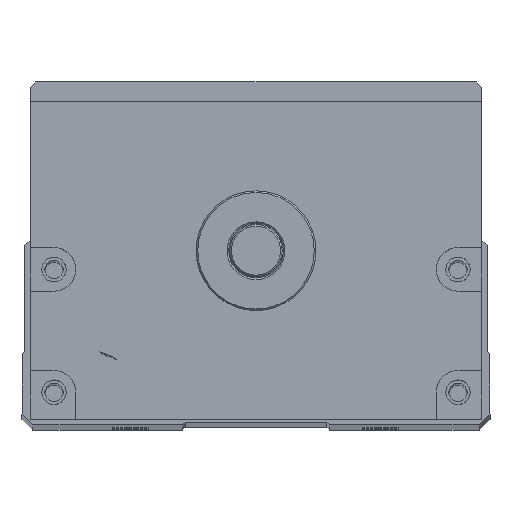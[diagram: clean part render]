
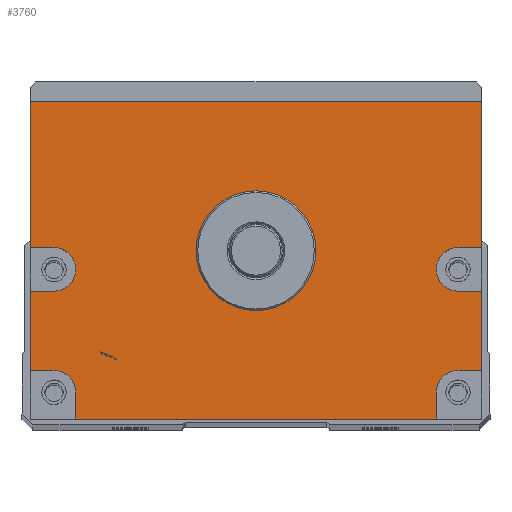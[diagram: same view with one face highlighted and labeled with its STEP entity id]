
A CAD part, top view. The second image highlights one B-rep face of the part: STEP entity #3760.
In plain terms, the highlighted planar face has unit normal (0, 0, 1).
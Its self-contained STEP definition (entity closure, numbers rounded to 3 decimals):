
#3167=FACE_BOUND('',#5207,.T.);
#3168=FACE_BOUND('',#5208,.T.);
#3760=ADVANCED_FACE('',(#3167,#3168),#4194,.T.);
#4194=PLANE('',#13502);
#5207=EDGE_LOOP('',(#8624,#8625,#8626,#8627,#8628,#8629,#8630,#8631,#8632,
#8633,#8634,#8635,#8636,#8637,#8638,#8639,#8640,#8641));
#5208=EDGE_LOOP('',(#8642));
#5999=LINE('',#19517,#6668);
#6001=LINE('',#19525,#6670);
#6002=LINE('',#19528,#6671);
#6003=LINE('',#19530,#6672);
#6004=LINE('',#19534,#6673);
#6005=LINE('',#19536,#6674);
#6006=LINE('',#19537,#6675);
#6007=LINE('',#19539,#6676);
#6008=LINE('',#19543,#6677);
#6009=LINE('',#19545,#6678);
#6010=LINE('',#19547,#6679);
#6011=LINE('',#19551,#6680);
#6012=LINE('',#19553,#6681);
#6013=LINE('',#19555,#6682);
#6668=VECTOR('',#15549,1.);
#6670=VECTOR('',#15557,1.);
#6671=VECTOR('',#15558,1.);
#6672=VECTOR('',#15559,1.);
#6673=VECTOR('',#15562,1.);
#6674=VECTOR('',#15563,1.);
#6675=VECTOR('',#15564,1.);
#6676=VECTOR('',#15565,1.);
#6677=VECTOR('',#15568,1.);
#6678=VECTOR('',#15569,1.);
#6679=VECTOR('',#15570,1.);
#6680=VECTOR('',#15573,1.);
#6681=VECTOR('',#15574,1.);
#6682=VECTOR('',#15575,1.);
#8624=ORIENTED_EDGE('',*,*,#11556,.F.);
#8625=ORIENTED_EDGE('',*,*,#11557,.T.);
#8626=ORIENTED_EDGE('',*,*,#11558,.F.);
#8627=ORIENTED_EDGE('',*,*,#11559,.F.);
#8628=ORIENTED_EDGE('',*,*,#11560,.F.);
#8629=ORIENTED_EDGE('',*,*,#11561,.T.);
#8630=ORIENTED_EDGE('',*,*,#11552,.T.);
#8631=ORIENTED_EDGE('',*,*,#11562,.T.);
#8632=ORIENTED_EDGE('',*,*,#11563,.F.);
#8633=ORIENTED_EDGE('',*,*,#11564,.F.);
#8634=ORIENTED_EDGE('',*,*,#11565,.F.);
#8635=ORIENTED_EDGE('',*,*,#11566,.T.);
#8636=ORIENTED_EDGE('',*,*,#11567,.F.);
#8637=ORIENTED_EDGE('',*,*,#11568,.F.);
#8638=ORIENTED_EDGE('',*,*,#11569,.F.);
#8639=ORIENTED_EDGE('',*,*,#11570,.T.);
#8640=ORIENTED_EDGE('',*,*,#11571,.F.);
#8641=ORIENTED_EDGE('',*,*,#11572,.F.);
#8642=ORIENTED_EDGE('',*,*,#11538,.T.);
#10290=VERTEX_POINT('',#19488);
#10303=VERTEX_POINT('',#19516);
#10304=VERTEX_POINT('',#19518);
#10307=VERTEX_POINT('',#19526);
#10308=VERTEX_POINT('',#19527);
#10309=VERTEX_POINT('',#19529);
#10310=VERTEX_POINT('',#19531);
#10311=VERTEX_POINT('',#19533);
#10312=VERTEX_POINT('',#19535);
#10313=VERTEX_POINT('',#19538);
#10314=VERTEX_POINT('',#19540);
#10315=VERTEX_POINT('',#19542);
#10316=VERTEX_POINT('',#19544);
#10317=VERTEX_POINT('',#19546);
#10318=VERTEX_POINT('',#19548);
#10319=VERTEX_POINT('',#19550);
#10320=VERTEX_POINT('',#19552);
#10321=VERTEX_POINT('',#19554);
#10322=VERTEX_POINT('',#19556);
#11538=EDGE_CURVE('',#10290,#10290,#12318,.T.);
#11552=EDGE_CURVE('',#10304,#10303,#5999,.T.);
#11556=EDGE_CURVE('',#10307,#10308,#6001,.T.);
#11557=EDGE_CURVE('',#10307,#10309,#6002,.T.);
#11558=EDGE_CURVE('',#10310,#10309,#6003,.T.);
#11559=EDGE_CURVE('',#10311,#10310,#12329,.T.);
#11560=EDGE_CURVE('',#10312,#10311,#6004,.T.);
#11561=EDGE_CURVE('',#10312,#10304,#6005,.T.);
#11562=EDGE_CURVE('',#10303,#10313,#6006,.T.);
#11563=EDGE_CURVE('',#10314,#10313,#6007,.T.);
#11564=EDGE_CURVE('',#10315,#10314,#12330,.T.);
#11565=EDGE_CURVE('',#10316,#10315,#6008,.T.);
#11566=EDGE_CURVE('',#10316,#10317,#6009,.T.);
#11567=EDGE_CURVE('',#10318,#10317,#6010,.T.);
#11568=EDGE_CURVE('',#10319,#10318,#12331,.T.);
#11569=EDGE_CURVE('',#10320,#10319,#6011,.T.);
#11570=EDGE_CURVE('',#10320,#10321,#6012,.T.);
#11571=EDGE_CURVE('',#10322,#10321,#6013,.T.);
#11572=EDGE_CURVE('',#10308,#10322,#12332,.T.);
#12318=CIRCLE('',#13484,11.);
#12329=CIRCLE('',#13498,4.);
#12330=CIRCLE('',#13499,4.);
#12331=CIRCLE('',#13500,4.);
#12332=CIRCLE('',#13501,4.);
#13484=AXIS2_PLACEMENT_3D('',#19487,#15522,#15523);
#13498=AXIS2_PLACEMENT_3D('',#19532,#15560,#15561);
#13499=AXIS2_PLACEMENT_3D('',#19541,#15566,#15567);
#13500=AXIS2_PLACEMENT_3D('',#19549,#15571,#15572);
#13501=AXIS2_PLACEMENT_3D('',#19557,#15576,#15577);
#13502=AXIS2_PLACEMENT_3D('',#19558,#15578,#15579);
#15522=DIRECTION('',(0.,0.,-1.));
#15523=DIRECTION('',(1.,0.,0.));
#15549=DIRECTION('',(-1.,0.,0.));
#15557=DIRECTION('',(-1.,0.,0.));
#15558=DIRECTION('',(0.,1.,0.));
#15559=DIRECTION('',(1.,0.,0.));
#15560=DIRECTION('',(0.,0.,1.));
#15561=DIRECTION('',(1.,0.,0.));
#15562=DIRECTION('',(-1.,0.,0.));
#15563=DIRECTION('',(0.,1.,0.));
#15564=DIRECTION('',(0.,-1.,0.));
#15565=DIRECTION('',(-1.,0.,0.));
#15566=DIRECTION('',(0.,0.,1.));
#15567=DIRECTION('',(1.,0.,0.));
#15568=DIRECTION('',(1.,0.,0.));
#15569=DIRECTION('',(0.,-1.,0.));
#15570=DIRECTION('',(-1.,0.,0.));
#15571=DIRECTION('',(0.,0.,1.));
#15572=DIRECTION('',(1.,0.,0.));
#15573=DIRECTION('',(0.,1.,0.));
#15574=DIRECTION('',(1.,0.,0.));
#15575=DIRECTION('',(0.,-1.,0.));
#15576=DIRECTION('',(0.,0.,1.));
#15577=DIRECTION('',(1.,0.,0.));
#15578=DIRECTION('',(0.,0.,1.));
#15579=DIRECTION('',(1.,0.,0.));
#19487=CARTESIAN_POINT('',(450.,0.,382.5));
#19488=CARTESIAN_POINT('',(461.,0.,382.5));
#19516=CARTESIAN_POINT('',(408.5,27.5,382.5));
#19517=CARTESIAN_POINT('',(491.5,27.5,382.5));
#19518=CARTESIAN_POINT('',(491.5,27.5,382.5));
#19525=CARTESIAN_POINT('',(491.5,-22.,382.5));
#19526=CARTESIAN_POINT('',(491.5,-22.,382.5));
#19527=CARTESIAN_POINT('',(487.115,-22.,382.5));
#19528=CARTESIAN_POINT('',(491.5,-31.,382.5));
#19529=CARTESIAN_POINT('',(491.5,-7.431,382.5));
#19530=CARTESIAN_POINT('',(491.5,-7.431,382.5));
#19531=CARTESIAN_POINT('',(487.115,-7.431,382.5));
#19532=CARTESIAN_POINT('',(487.115,-3.431,382.5));
#19533=CARTESIAN_POINT('',(487.115,0.569,382.5));
#19534=CARTESIAN_POINT('',(491.5,0.569,382.5));
#19535=CARTESIAN_POINT('',(491.5,0.569,382.5));
#19536=CARTESIAN_POINT('',(491.5,-31.,382.5));
#19537=CARTESIAN_POINT('',(408.5,27.5,382.5));
#19538=CARTESIAN_POINT('',(408.5,0.569,382.5));
#19539=CARTESIAN_POINT('',(491.5,0.569,382.5));
#19540=CARTESIAN_POINT('',(412.885,0.569,382.5));
#19541=CARTESIAN_POINT('',(412.885,-3.431,382.5));
#19542=CARTESIAN_POINT('',(412.885,-7.431,382.5));
#19543=CARTESIAN_POINT('',(491.5,-7.431,382.5));
#19544=CARTESIAN_POINT('',(408.5,-7.431,382.5));
#19545=CARTESIAN_POINT('',(408.5,27.5,382.5));
#19546=CARTESIAN_POINT('',(408.5,-22.,382.5));
#19547=CARTESIAN_POINT('',(491.5,-22.,382.5));
#19548=CARTESIAN_POINT('',(412.885,-22.,382.5));
#19549=CARTESIAN_POINT('',(412.885,-26.,382.5));
#19550=CARTESIAN_POINT('',(416.885,-26.,382.5));
#19551=CARTESIAN_POINT('',(416.885,-31.,382.5));
#19552=CARTESIAN_POINT('',(416.885,-31.,382.5));
#19553=CARTESIAN_POINT('',(408.5,-31.,382.5));
#19554=CARTESIAN_POINT('',(483.115,-31.,382.5));
#19555=CARTESIAN_POINT('',(483.115,-31.,382.5));
#19556=CARTESIAN_POINT('',(483.115,-26.,382.5));
#19557=CARTESIAN_POINT('',(487.115,-26.,382.5));
#19558=CARTESIAN_POINT('',(491.5,-31.,382.5));
